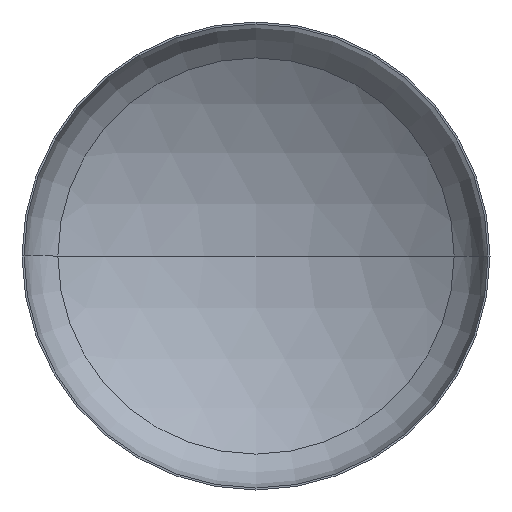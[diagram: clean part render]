
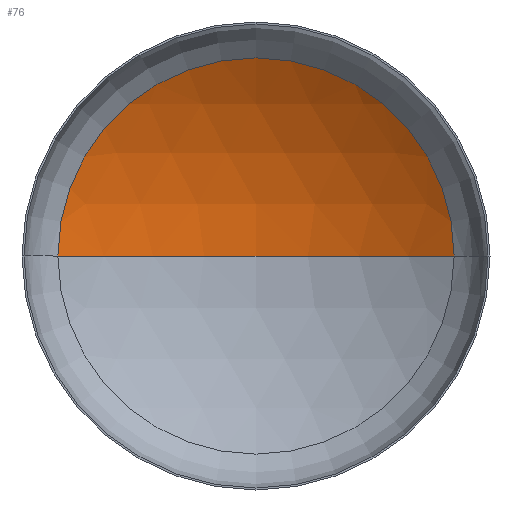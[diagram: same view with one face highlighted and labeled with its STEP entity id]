
A CAD part, front view. The second image highlights one B-rep face of the part: STEP entity #76.
In plain terms, the highlighted spherical face has radius 2080 mm.
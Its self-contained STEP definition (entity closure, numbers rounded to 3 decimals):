
#15 = AXIS2_PLACEMENT_3D ( 'NONE', #340, #184, #180 ) ;
#16 = AXIS2_PLACEMENT_3D ( 'NONE', #336, #331, #335 ) ;
#20 = VERTEX_POINT ( 'NONE', #364 ) ;
#39 = AXIS2_PLACEMENT_3D ( 'NONE', #349, #241, #252 ) ;
#44 = ORIENTED_EDGE ( 'NONE', *, *, #356, .T. ) ;
#62 = VERTEX_POINT ( 'NONE', #370 ) ;
#76 = ADVANCED_FACE ( 'NONE', ( #314 ), #251, .F. ) ;
#77 = CIRCLE ( 'NONE', #80, 2080. ) ;
#80 = AXIS2_PLACEMENT_3D ( 'NONE', #121, #108, #105 ) ;
#105 = DIRECTION ( 'NONE',  ( 1., 0., 0. ) ) ;
#108 = DIRECTION ( 'NONE',  ( 0., 0., 1. ) ) ;
#111 = CIRCLE ( 'NONE', #16, 1100.667 ) ;
#121 = CARTESIAN_POINT ( 'NONE',  ( 0., -1385.51, 0. ) ) ;
#137 = VERTEX_POINT ( 'NONE', #262 ) ;
#180 = DIRECTION ( 'NONE',  ( -1., 0., 0. ) ) ;
#184 = DIRECTION ( 'NONE',  ( 0., 0., -1. ) ) ;
#193 = ORIENTED_EDGE ( 'NONE', *, *, #353, .T. ) ;
#207 = CIRCLE ( 'NONE', #15, 2080. ) ;
#230 = ORIENTED_EDGE ( 'NONE', *, *, #396, .F. ) ;
#241 = DIRECTION ( 'NONE',  ( 0., 0., -1. ) ) ;
#251 = SPHERICAL_SURFACE ( 'NONE', #39, 2080. ) ;
#252 = DIRECTION ( 'NONE',  ( -1., 0., 0. ) ) ;
#262 = CARTESIAN_POINT ( 'NONE',  ( 1100.667, 379.407, 0. ) ) ;
#286 = EDGE_LOOP ( 'NONE', ( #230, #44, #193 ) ) ;
#314 = FACE_OUTER_BOUND ( 'NONE', #286, .T. ) ;
#331 = DIRECTION ( 'NONE',  ( 0., -1., 0. ) ) ;
#335 = DIRECTION ( 'NONE',  ( 1., 0., 0. ) ) ;
#336 = CARTESIAN_POINT ( 'NONE',  ( 0., 379.407, 0. ) ) ;
#340 = CARTESIAN_POINT ( 'NONE',  ( 0., -1385.51, 0. ) ) ;
#349 = CARTESIAN_POINT ( 'NONE',  ( 0., -1385.51, 0. ) ) ;
#353 = EDGE_CURVE ( 'NONE', #137, #20, #111, .T. ) ;
#356 = EDGE_CURVE ( 'NONE', #62, #137, #207, .T. ) ;
#364 = CARTESIAN_POINT ( 'NONE',  ( -1100.667, 379.407, 0. ) ) ;
#370 = CARTESIAN_POINT ( 'NONE',  ( 0., 694.49, 0. ) ) ;
#396 = EDGE_CURVE ( 'NONE', #62, #20, #77, .T. ) ;
